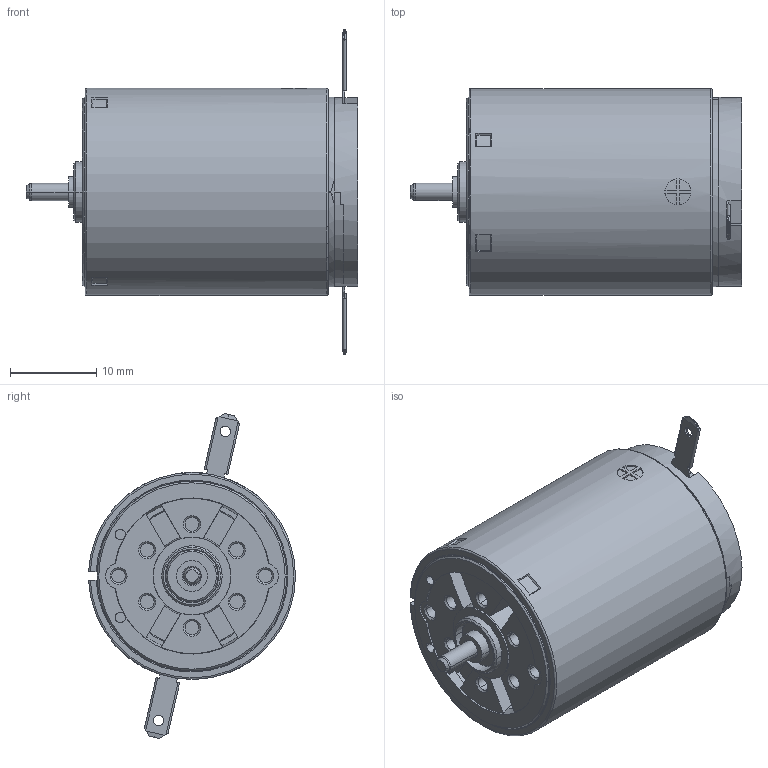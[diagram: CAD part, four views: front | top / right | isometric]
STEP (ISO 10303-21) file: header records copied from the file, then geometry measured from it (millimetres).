
FILE_DESCRIPTION((''),'2;1');
FILE_NAME('220404_REMAX24_10W_1WE','2016-11-08T',('mmagpetk'),(''),'CREO PARAMETRIC BY PTC INC, 2016050','CREO PARAMETRIC BY PTC INC, 2016050','');
FILE_SCHEMA(('CONFIG_CONTROL_DESIGN'));
Length unit declared in the file: millimetre
Products named in the file (1): 220404_REMAX24_10W_1WE
Bounding box: 38.4 x 23.99 x 37.69 mm (x, y, z)
Volume: 13910.5 mm3; surface area: 4136 mm2
Topology: 1 solids, 3 shells, 416 faces, 1010 edges, 625 vertices
Faces by surface type: plane 237, cylinder 109, cone 64, torus 6
Entity records: 19411 total; most frequent: CARTESIAN_POINT 3248, ORIENTED_EDGE 2020, DIRECTION 2000, PRESENTATION_STYLE_ASSIGNMENT 1427, STYLED_ITEM 1011, CURVE_STYLE 1010, EDGE_CURVE 1010, AXIS2_PLACEMENT_3D 722
